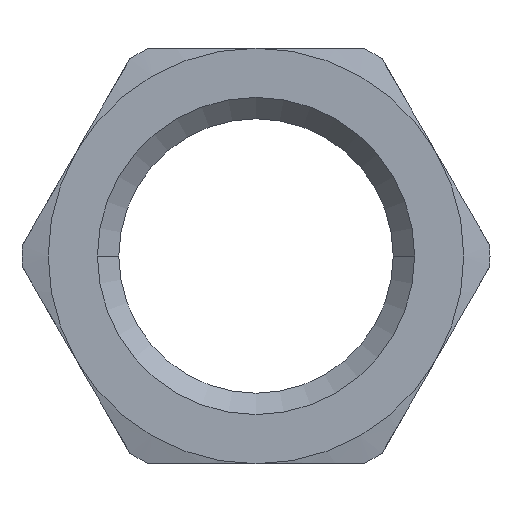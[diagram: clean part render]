
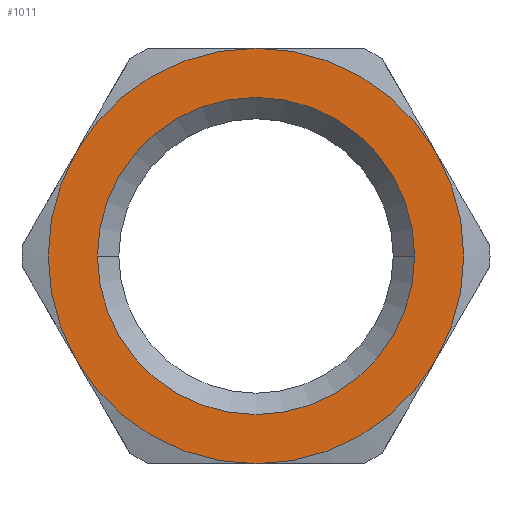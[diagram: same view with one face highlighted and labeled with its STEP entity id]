
A CAD part, left-side view. The second image highlights one B-rep face of the part: STEP entity #1011.
In plain terms, the highlighted planar face has unit normal (-1, 0, 0) as drawn and (0, 0, 1) by its records, which use the part's own axes.
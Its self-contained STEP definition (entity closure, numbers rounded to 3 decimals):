
#299=CARTESIAN_POINT('',(0.,7.25,3.));
#300=VERTEX_POINT('',#299);
#314=CARTESIAN_POINT('',(0.,-7.25,3.0));
#315=VERTEX_POINT('',#314);
#322=CARTESIAN_POINT('',(0.,0.,3.0));
#323=DIRECTION('',(0.0,0.0,-1.0));
#324=DIRECTION('',(0.0,1.0,0.0));
#325=AXIS2_PLACEMENT_3D('',#322,#323,#324);
#326=CIRCLE('',#325,7.25);
#327=EDGE_CURVE('',#300,#315,#326,.T.);
#338=CARTESIAN_POINT('',(0.,0.,3.0));
#339=DIRECTION('',(0.0,0.0,-1.0));
#340=DIRECTION('',(0.0,1.0,0.0));
#341=AXIS2_PLACEMENT_3D('',#338,#339,#340);
#342=CIRCLE('',#341,7.25);
#343=EDGE_CURVE('',#315,#300,#342,.T.);
#626=CARTESIAN_POINT('',(-9.5,0.,3.));
#627=VERTEX_POINT('',#626);
#641=CARTESIAN_POINT('',(-4.75,8.227,3.));
#642=VERTEX_POINT('',#641);
#643=CARTESIAN_POINT('',(0.,0.0,3.0));
#644=DIRECTION('',(0.0,0.0,1.0));
#645=DIRECTION('',(1.0,0.0,0.0));
#646=AXIS2_PLACEMENT_3D('',#643,#644,#645);
#647=CIRCLE('',#646,9.5);
#648=EDGE_CURVE('',#642,#627,#647,.T.);
#702=CARTESIAN_POINT('',(-4.75,-8.227,3.));
#703=VERTEX_POINT('',#702);
#717=CARTESIAN_POINT('',(0.,0.0,3.0));
#718=DIRECTION('',(0.0,0.0,1.0));
#719=DIRECTION('',(1.0,0.0,0.0));
#720=AXIS2_PLACEMENT_3D('',#717,#718,#719);
#721=CIRCLE('',#720,9.5);
#722=EDGE_CURVE('',#627,#703,#721,.T.);
#764=CARTESIAN_POINT('',(4.75,-8.227,3.));
#765=VERTEX_POINT('',#764);
#779=CARTESIAN_POINT('',(0.,0.0,3.0));
#780=DIRECTION('',(0.0,0.0,1.0));
#781=DIRECTION('',(1.0,0.0,0.0));
#782=AXIS2_PLACEMENT_3D('',#779,#780,#781);
#783=CIRCLE('',#782,9.5);
#784=EDGE_CURVE('',#703,#765,#783,.T.);
#827=CARTESIAN_POINT('',(9.5,0.0,3.));
#828=VERTEX_POINT('',#827);
#842=CARTESIAN_POINT('',(0.,0.0,3.0));
#843=DIRECTION('',(0.0,0.0,1.0));
#844=DIRECTION('',(1.0,0.0,0.0));
#845=AXIS2_PLACEMENT_3D('',#842,#843,#844);
#846=CIRCLE('',#845,9.5);
#847=EDGE_CURVE('',#765,#828,#846,.T.);
#872=CARTESIAN_POINT('',(4.75,8.227,3.));
#873=VERTEX_POINT('',#872);
#874=CARTESIAN_POINT('',(0.,0.0,3.0));
#875=DIRECTION('',(0.0,0.0,1.0));
#876=DIRECTION('',(1.0,0.0,0.0));
#877=AXIS2_PLACEMENT_3D('',#874,#875,#876);
#878=CIRCLE('',#877,9.5);
#879=EDGE_CURVE('',#873,#642,#878,.T.);
#917=CARTESIAN_POINT('',(0.,0.0,3.0));
#918=DIRECTION('',(0.0,0.0,1.0));
#919=DIRECTION('',(1.0,0.0,0.0));
#920=AXIS2_PLACEMENT_3D('',#917,#918,#919);
#921=CIRCLE('',#920,9.5);
#922=EDGE_CURVE('',#828,#873,#921,.T.);
#994=CARTESIAN_POINT('',(0.,0.,3.0));
#995=DIRECTION('',(0.0,0.0,1.0));
#996=DIRECTION('',(1.0,0.0,0.0));
#997=AXIS2_PLACEMENT_3D('',#994,#995,#996);
#998=PLANE('',#997);
#999=ORIENTED_EDGE('',*,*,#847,.T.);
#1000=ORIENTED_EDGE('',*,*,#922,.T.);
#1001=ORIENTED_EDGE('',*,*,#879,.T.);
#1002=ORIENTED_EDGE('',*,*,#648,.T.);
#1003=ORIENTED_EDGE('',*,*,#722,.T.);
#1004=ORIENTED_EDGE('',*,*,#784,.T.);
#1005=EDGE_LOOP('',(#999,#1000,#1001,#1002,#1003,#1004));
#1006=FACE_OUTER_BOUND('',#1005,.T.);
#1007=ORIENTED_EDGE('',*,*,#327,.T.);
#1008=ORIENTED_EDGE('',*,*,#343,.T.);
#1009=EDGE_LOOP('',(#1007,#1008));
#1010=FACE_BOUND('',#1009,.T.);
#1011=ADVANCED_FACE('',(#1006,#1010),#998,.T.);
